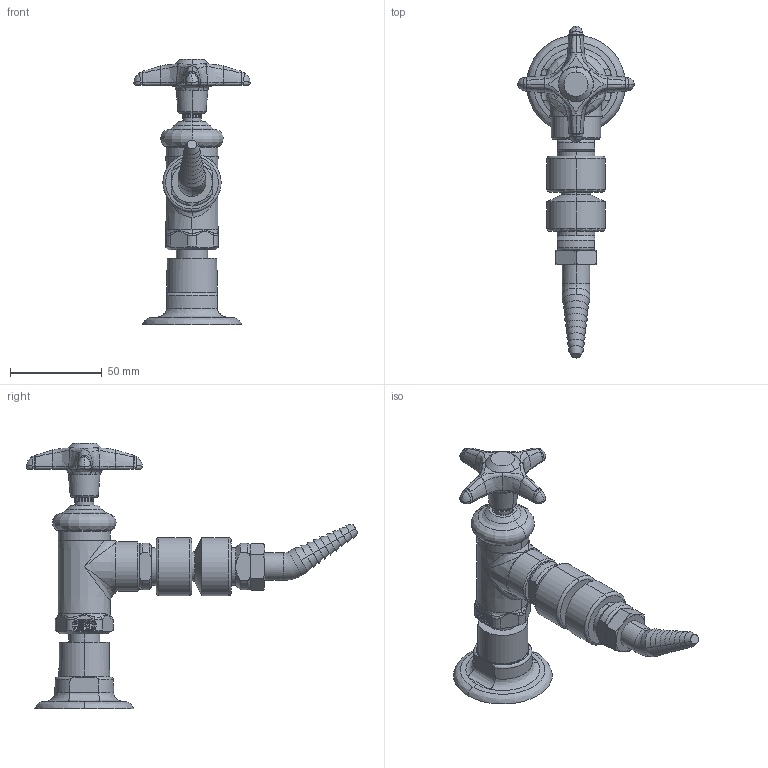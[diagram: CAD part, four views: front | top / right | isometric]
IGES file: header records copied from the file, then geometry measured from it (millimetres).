
Start section:  PTC IGES file: LWV2-C54-50.igs
Global section: file name: LWV2-C54-50.igs; native system: Creo Parametric by PTC Inc.; preprocessor: 2014500; author: usch_engrender; organization: Unknown; date: 20151117.120534; units: inch
Bounding box: 63.42 x 180.84 x 144.7 mm (x, y, z)
Volume: 146953 mm3; surface area: 34627.9 mm2
Topology: 1 solids, 4 shells, 551 faces, 1274 edges, 756 vertices
Faces by surface type: bspline 295, revolution 256
